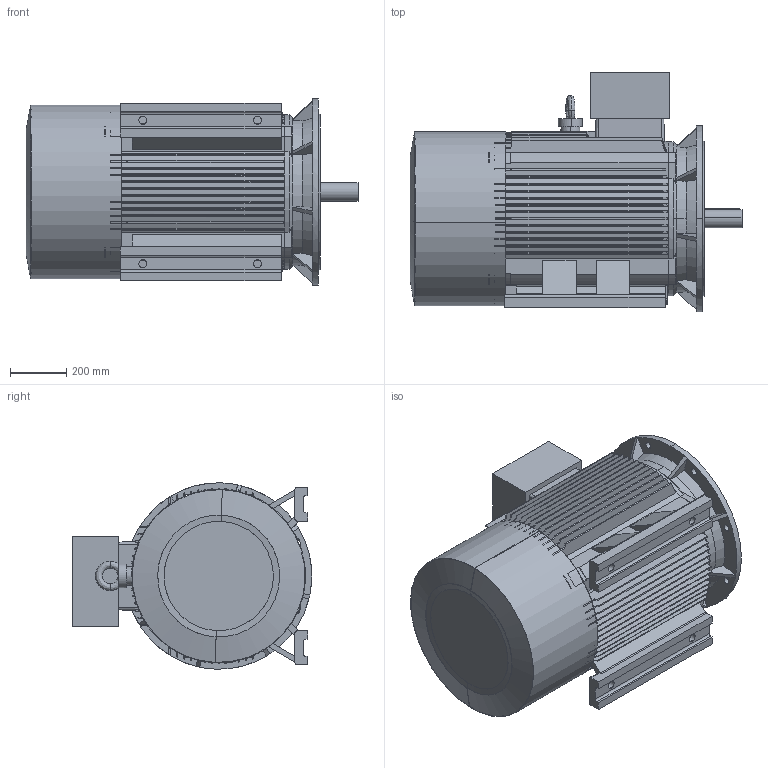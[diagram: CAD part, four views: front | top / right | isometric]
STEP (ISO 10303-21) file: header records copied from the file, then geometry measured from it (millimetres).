
FILE_DESCRIPTION (( 'STEP AP203' ), '1' );
FILE_NAME ('M3-315S-2p-FF-B35.STEP', '2019-07-09T11:07:05', ( '' ), ( '' ), 'SwSTEP 2.0', 'SolidWorks 2012', '' );
FILE_SCHEMA (( 'CONFIG_CONTROL_DESIGN' ));
Length unit declared in the file: millimetre
Products named in the file (7): Y2-315-2-ｦﾈﾁﾂ-ｩﾃ_-ｼ+､; 315ﾁｧ+ﾀ_-ｼ+､; M3-315S-2p-FF-B35; Y2-315-2ﾍﾟ_-ｼ+､; Y2-315-2.4..6.8ﾀiﾍ_-ｼ+､; +ｷﾎｨB3-315S_-ｼ+､; Y2-315-2Íß¦ð-Ô©Ã_-¼+¤
Assembly tree (6 placements, depth 2):
  M3-315S-2p-FF-B35
    Y2-315-2Íß¦ð-Ô©Ã_-¼+¤
    Y2-315-2ﾍﾟ_-ｼ+､
    +ｷﾎｨB3-315S_-ｼ+､
    Y2-315-2.4..6.8ﾀiﾍ_-ｼ+､
    Y2-315-2-ｦﾈﾁﾂ-ｩﾃ_-ｼ+､
    315ﾁｧ+ﾀ_-ｼ+､
Bounding box: 1176 x 849 x 660 mm (x, y, z)
Volume: 68816619.6 mm3; surface area: 8769689.9 mm2
Topology: 6 solids, 10 shells, 788 faces, 2177 edges, 1430 vertices
Faces by surface type: plane 351, cylinder 256, cone 112, bspline 69
Entity records: 31589 total; most frequent: CARTESIAN_POINT 11253, ORIENTED_EDGE 4354, DIRECTION 3754, EDGE_CURVE 2177, VERTEX_POINT 1430, AXIS2_PLACEMENT_3D 1387, VECTOR 980, LINE 980
